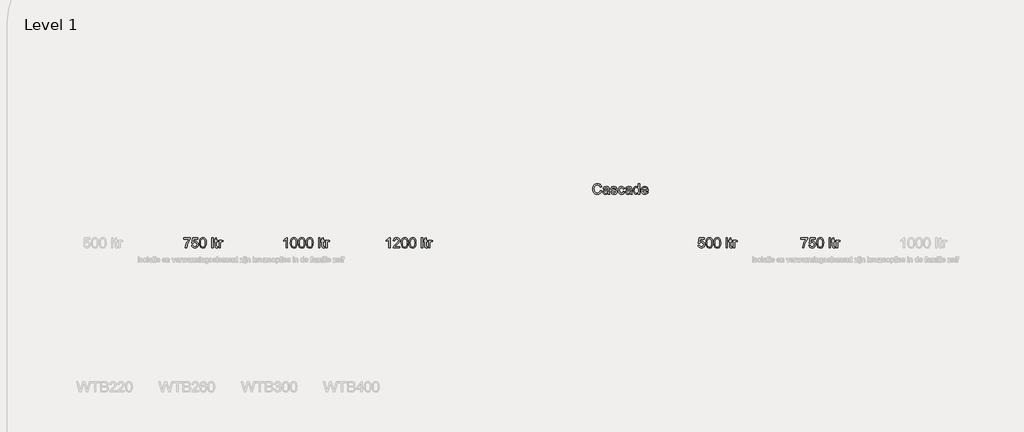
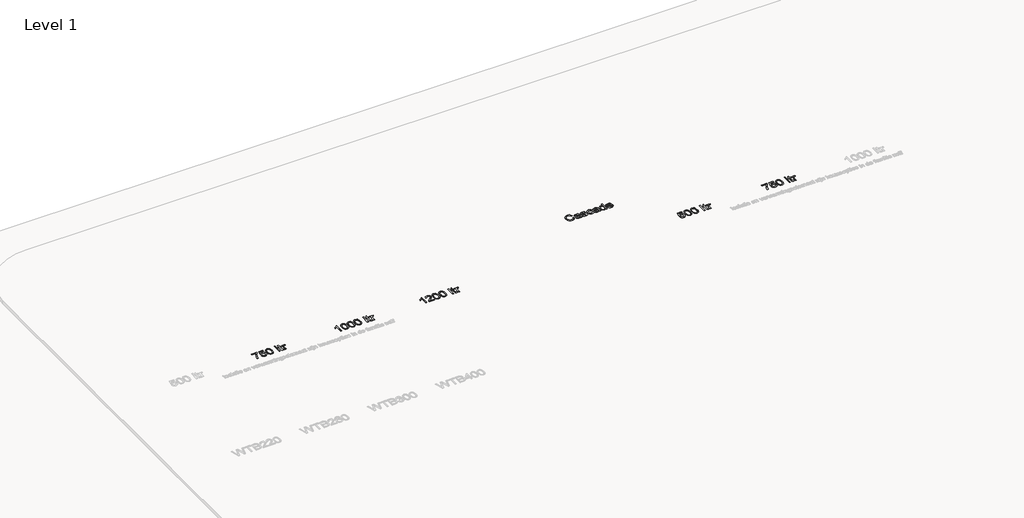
# One storey, part 29 of 34: 6 proxies.
"""IFC4 building model written with IfcOpenShell, lengths in millimetres."""

from ifc_helpers import new_model, si_unit, origin, origin_with_axes, place, context, project, spatial, polyline, outline, extrude, element, save

model = new_model("IFC4")

# Units and contexts
model_context = context("Model", 3, world=origin())
ifc_project = project(units=[si_unit("LENGTHUNIT", "METRE", prefix="MILLI")], contexts=[model_context])

# Site, building, storey
site = spatial("IfcSite", under=ifc_project)
building = spatial("IfcBuilding", under=site)
storey = spatial("IfcBuildingStorey", under=building, Name="Level 1", Elevation=0.0)

# Proxies
placement = place(None, origin())
element("IfcBuildingElementProxy", 1, Name="type", ObjectType="type", at=placement, inside=storey, context=model_context, shape_type="SweptSolid", body=[
    extrude(outline(polyline([(-7928.1485869, 11188.0835317), (-7909.3130288, 11190.4379765), (-7905.854938, 11179.1302037), (-7899.8216733, 11171.0322013), (-7891.2408257, 11166.1623634), (-7880.1399865, 11164.539084), (-7866.6387173, 11166.7969598), (-7856.5219624, 11173.570587), (-7850.2035892, 11184.0782165), (-7848.0974648, 11197.538099), (-7850.070232, 11210.2116337), (-7855.9885336, 11219.9053243), (-7865.8983548, 11226.0581507), (-7879.8456809, 11228.1090928), (-7896.3819766, 11224.8349431), (-7906.958584, 11216.336869), (-7925.7941421, 11218.6913137), (-7909.3130288, 11296.3879911), (-7836.3252409, 11296.3879911), (-7836.3252409, 11277.552433), (-7894.0827142, 11277.552433), (-7902.1393298, 11236.0553439), (-7888.6840459, 11244.2223242), (-7874.5849684, 11246.944651), (-7856.9864135, 11243.5693337), (-7842.3768997, 11233.4433817), (-7832.5406549, 11218.010732), (-7829.2619066, 11198.7153214), (-7832.2141596, 11179.8797632), (-7841.0709186, 11163.7665319), (-7858.0302786, 11150.2192774), (-7880.2135629, 11145.7035259), (-7898.7134288, 11148.6051951), (-7913.4517012, 11157.3102028), (-7923.5546605, 11170.8068735), (-7928.1485869, 11188.0835317)])), origin_with_axes(), (0.0, 0.0, 1.0), 5.0),
    extrude(outline(polyline([(-7812.7807932, 11222.1861927), (-7811.3966372, 11246.305456), (-7807.2441692, 11265.5410858), (-7800.3647759, 11280.1873878), (-7790.799844, 11290.5386674), (-7778.4803957, 11296.6914938), (-7763.3374531, 11298.7424359), (-7741.3381098, 11293.8863936), (-7726.1445834, 11279.8884836), (-7717.3154155, 11257.5948347), (-7713.8941129, 11222.1861927), (-7715.2644733, 11198.2048851), (-7719.3755546, 11179.0152406), (-7726.2135612, 11164.3551431), (-7735.7646975, 11153.9624767), (-7748.111737, 11147.7682636), (-7763.3374531, 11145.7035259), (-7782.9087752, 11149.2903753), (-7797.7712078, 11160.0509237), (-7809.0283969, 11185.5359489), (-7812.7807932, 11222.1861927)]), holes=[polyline([(-7793.9452351, 11222.2229809), (-7791.7379431, 11192.5946847), (-7785.1160672, 11175.4467852), (-7775.2568297, 11167.2660093), (-7763.3374531, 11164.539084), (-7751.4180764, 11167.2752064), (-7741.558839, 11175.4835734), (-7734.936963, 11192.64067), (-7732.7296711, 11222.2229809), (-7734.8633866, 11251.184491), (-7741.2645334, 11268.4657477), (-7751.1053767, 11277.0465952), (-7763.5581823, 11279.9068777), (-7775.3488002, 11277.3868861), (-7784.8217616, 11269.8269111), (-7791.6643667, 11251.4695995), (-7793.9452351, 11222.2229809)])]), origin_with_axes(), (0.0, 0.0, 1.0), 5.0),
    extrude(outline(polyline([(-7697.4129995, 11222.1861927), (-7696.0288435, 11246.305456), (-7691.8763755, 11265.5410858), (-7684.9969822, 11280.1873878), (-7675.4320503, 11290.5386674), (-7663.112602, 11296.6914938), (-7647.9696594, 11298.7424359), (-7625.9703161, 11293.8863936), (-7610.7767897, 11279.8884836), (-7601.9476218, 11257.5948347), (-7598.5263192, 11222.1861927), (-7599.8966797, 11198.2048851), (-7604.007761, 11179.0152406), (-7610.8457675, 11164.3551431), (-7620.3969038, 11153.9624767), (-7632.7439433, 11147.7682636), (-7647.9696594, 11145.7035259), (-7667.5409815, 11149.2903753), (-7682.4034141, 11160.0509237), (-7693.6606032, 11185.5359489), (-7697.4129995, 11222.1861927)]), holes=[polyline([(-7678.5774414, 11222.2229809), (-7676.3701494, 11192.5946847), (-7669.7482735, 11175.4467852), (-7659.889036, 11167.2660093), (-7647.9696594, 11164.539084), (-7636.0502827, 11167.2752064), (-7626.1910453, 11175.4835734), (-7619.5691694, 11192.64067), (-7617.3618774, 11222.2229809), (-7619.495593, 11251.184491), (-7625.8967397, 11268.4657477), (-7635.737583, 11277.0465952), (-7648.1903886, 11279.9068777), (-7659.9810065, 11277.3868861), (-7669.4539679, 11269.8269111), (-7676.296573, 11251.4695995), (-7678.5774414, 11222.2229809)])]), origin_with_axes(), (0.0, 0.0, 1.0), 5.0),
    extrude(outline(polyline([(-7518.4751971, 11148.0579707), (-7518.4751971, 11298.7424359), (-7499.6396389, 11298.7424359), (-7499.6396389, 11148.0579707), (-7518.4751971, 11148.0579707)])), origin_with_axes(), (0.0, 0.0, 1.0), 5.0),
    extrude(outline(polyline([(-7431.3607406, 11163.7665319), (-7429.0062958, 11147.5061477), (-7443.0961763, 11145.7035259), (-7458.8783139, 11148.8305229), (-7466.7509886, 11157.0342913), (-7469.0318569, 11178.4082353), (-7469.0318569, 11239.8813167), (-7483.1585255, 11239.8813167), (-7483.1585255, 11258.7168748), (-7469.0318569, 11258.7168748), (-7469.0318569, 11285.6090487), (-7450.1962988, 11296.6822967), (-7450.1962988, 11258.7168748), (-7431.3607406, 11258.7168748), (-7431.3607406, 11239.8813167), (-7450.1962988, 11239.8813167), (-7450.1962988, 11178.9600583), (-7449.2030174, 11169.2479736), (-7445.9840499, 11165.8082769), (-7439.5645091, 11164.539084), (-7431.3607406, 11163.7665319)])), origin_with_axes(), (0.0, 0.0, 1.0), 5.0),
    extrude(outline(polyline([(-7412.5251825, 11148.0579707), (-7412.5251825, 11258.7168748), (-7396.0440691, 11258.7168748), (-7396.0440691, 11242.346126), (-7384.3454216, 11257.4292878), (-7372.5731978, 11261.0713196), (-7353.6640632, 11255.2587841), (-7359.9548454, 11238.3730005), (-7373.1985972, 11242.2357614), (-7383.8487809, 11238.5201533), (-7390.6362038, 11228.2194574), (-7393.6896243, 11206.2201141), (-7393.6896243, 11148.0579707), (-7412.5251825, 11148.0579707)])), origin_with_axes(), (0.0, 0.0, 1.0), 5.0),
])
element("IfcBuildingElementProxy", 2, Name="type", ObjectType="type", at=placement, inside=storey, context=model_context, shape_type="SweptSolid", body=[
    extrude(outline(polyline([(-6428.1485869, 11277.552433), (-6428.1485869, 11296.3879911), (-6329.2619066, 11296.3879911), (-6329.2619066, 11281.1576765), (-6357.3129087, 11240.6354748), (-6369.62316, 11215.1734422), (-6378.7788232, 11189.0032367), (-6385.7685811, 11148.0579707), (-6404.6041392, 11148.0579707), (-6397.1177406, 11190.5483411), (-6388.4035359, 11215.0078953), (-6376.5715312, 11238.5753356), (-6348.0974648, 11277.552433), (-6428.1485869, 11277.552433)])), origin_with_axes(), (0.0, 0.0, 1.0), 5.0),
    extrude(outline(polyline([(-6312.7807932, 11188.0835317), (-6293.9452351, 11190.4379765), (-6290.4871443, 11179.1302037), (-6284.4538796, 11171.0322013), (-6275.8730321, 11166.1623634), (-6264.7721928, 11164.539084), (-6251.2709236, 11166.7969598), (-6241.1541688, 11173.570587), (-6234.8357955, 11184.0782165), (-6232.7296711, 11197.538099), (-6234.7024383, 11210.2116337), (-6240.6207399, 11219.9053243), (-6250.5305611, 11226.0581507), (-6264.4778873, 11228.1090928), (-6281.0141829, 11224.8349431), (-6291.5907903, 11216.336869), (-6310.4263484, 11218.6913137), (-6293.9452351, 11296.3879911), (-6220.9574472, 11296.3879911), (-6220.9574472, 11277.552433), (-6278.7149205, 11277.552433), (-6286.7715362, 11236.0553439), (-6273.3162522, 11244.2223242), (-6259.2171747, 11246.944651), (-6241.6186198, 11243.5693337), (-6227.009106, 11233.4433817), (-6217.1728612, 11218.010732), (-6213.8941129, 11198.7153214), (-6216.8463659, 11179.8797632), (-6225.703125, 11163.7665319), (-6242.6624849, 11150.2192774), (-6264.8457692, 11145.7035259), (-6283.3456351, 11148.6051951), (-6298.0839075, 11157.3102028), (-6308.1868668, 11170.8068735), (-6312.7807932, 11188.0835317)])), origin_with_axes(), (0.0, 0.0, 1.0), 5.0),
    extrude(outline(polyline([(-6197.4129995, 11222.1861927), (-6196.0288435, 11246.305456), (-6191.8763755, 11265.5410858), (-6184.9969822, 11280.1873878), (-6175.4320503, 11290.5386674), (-6163.112602, 11296.6914938), (-6147.9696594, 11298.7424359), (-6125.9703161, 11293.8863936), (-6110.7767897, 11279.8884836), (-6101.9476218, 11257.5948347), (-6098.5263192, 11222.1861927), (-6099.8966797, 11198.2048851), (-6104.007761, 11179.0152406), (-6110.8457675, 11164.3551431), (-6120.3969038, 11153.9624767), (-6132.7439433, 11147.7682636), (-6147.9696594, 11145.7035259), (-6167.5409815, 11149.2903753), (-6182.4034141, 11160.0509237), (-6193.6606032, 11185.5359489), (-6197.4129995, 11222.1861927)]), holes=[polyline([(-6178.5774414, 11222.2229809), (-6176.3701494, 11192.5946847), (-6169.7482735, 11175.4467852), (-6159.889036, 11167.2660093), (-6147.9696594, 11164.539084), (-6136.0502827, 11167.2752064), (-6126.1910453, 11175.4835734), (-6119.5691694, 11192.64067), (-6117.3618774, 11222.2229809), (-6119.495593, 11251.184491), (-6125.8967397, 11268.4657477), (-6135.737583, 11277.0465952), (-6148.1903886, 11279.9068777), (-6159.9810065, 11277.3868861), (-6169.4539679, 11269.8269111), (-6176.296573, 11251.4695995), (-6178.5774414, 11222.2229809)])]), origin_with_axes(), (0.0, 0.0, 1.0), 5.0),
    extrude(outline(polyline([(-6018.4751971, 11148.0579707), (-6018.4751971, 11298.7424359), (-5999.6396389, 11298.7424359), (-5999.6396389, 11148.0579707), (-6018.4751971, 11148.0579707)])), origin_with_axes(), (0.0, 0.0, 1.0), 5.0),
    extrude(outline(polyline([(-5931.3607406, 11163.7665319), (-5929.0062958, 11147.5061477), (-5943.0961763, 11145.7035259), (-5958.8783139, 11148.8305229), (-5966.7509886, 11157.0342913), (-5969.0318569, 11178.4082353), (-5969.0318569, 11239.8813167), (-5983.1585255, 11239.8813167), (-5983.1585255, 11258.7168748), (-5969.0318569, 11258.7168748), (-5969.0318569, 11285.6090487), (-5950.1962988, 11296.6822967), (-5950.1962988, 11258.7168748), (-5931.3607406, 11258.7168748), (-5931.3607406, 11239.8813167), (-5950.1962988, 11239.8813167), (-5950.1962988, 11178.9600583), (-5949.2030174, 11169.2479736), (-5945.9840499, 11165.8082769), (-5939.5645091, 11164.539084), (-5931.3607406, 11163.7665319)])), origin_with_axes(), (0.0, 0.0, 1.0), 5.0),
    extrude(outline(polyline([(-5912.5251825, 11148.0579707), (-5912.5251825, 11258.7168748), (-5896.0440691, 11258.7168748), (-5896.0440691, 11242.346126), (-5884.3454216, 11257.4292878), (-5872.5731978, 11261.0713196), (-5853.6640632, 11255.2587841), (-5859.9548454, 11238.3730005), (-5873.1985972, 11242.2357614), (-5883.8487809, 11238.5201533), (-5890.6362038, 11228.2194574), (-5893.6896243, 11206.2201141), (-5893.6896243, 11148.0579707), (-5912.5251825, 11148.0579707)])), origin_with_axes(), (0.0, 0.0, 1.0), 5.0),
])
element("IfcBuildingElementProxy", 3, Name="type", ObjectType="type", at=placement, inside=storey, context=model_context, shape_type="SweptSolid", body=[
    extrude(outline(polyline([(-15430.2812113, 11277.552433), (-15430.2812113, 11296.3879911), (-15331.394531, 11296.3879911), (-15331.394531, 11281.1576765), (-15359.4455331, 11240.6354748), (-15371.7557844, 11215.1734422), (-15380.9114475, 11189.0032367), (-15387.9012054, 11148.0579707), (-15406.7367636, 11148.0579707), (-15399.250365, 11190.5483411), (-15390.5361602, 11215.0078953), (-15378.7041556, 11238.5753356), (-15350.2300891, 11277.552433), (-15430.2812113, 11277.552433)])), origin_with_axes(), (0.0, 0.0, 1.0), 5.0),
    extrude(outline(polyline([(-15314.9134176, 11188.0835317), (-15296.0778594, 11190.4379765), (-15292.6197687, 11179.1302037), (-15286.586504, 11171.0322013), (-15278.0056564, 11166.1623634), (-15266.9048172, 11164.539084), (-15253.403548, 11166.7969598), (-15243.2867931, 11173.570587), (-15236.9684199, 11184.0782165), (-15234.8622954, 11197.538099), (-15236.8350626, 11210.2116337), (-15242.7533642, 11219.9053243), (-15252.6631855, 11226.0581507), (-15266.6105116, 11228.1090928), (-15283.1468073, 11224.8349431), (-15293.7234147, 11216.336869), (-15312.5589728, 11218.6913137), (-15296.0778594, 11296.3879911), (-15223.0900716, 11296.3879911), (-15223.0900716, 11277.552433), (-15280.8475448, 11277.552433), (-15288.9041605, 11236.0553439), (-15275.4488766, 11244.2223242), (-15261.3497991, 11246.944651), (-15243.7512441, 11243.5693337), (-15229.1417304, 11233.4433817), (-15219.3054856, 11218.010732), (-15216.0267373, 11198.7153214), (-15218.9789903, 11179.8797632), (-15227.8357493, 11163.7665319), (-15244.7951093, 11150.2192774), (-15266.9783936, 11145.7035259), (-15285.4782595, 11148.6051951), (-15300.2165319, 11157.3102028), (-15310.3194912, 11170.8068735), (-15314.9134176, 11188.0835317)])), origin_with_axes(), (0.0, 0.0, 1.0), 5.0),
    extrude(outline(polyline([(-15199.5456239, 11222.1861927), (-15198.1614679, 11246.305456), (-15194.0089999, 11265.5410858), (-15187.1296066, 11280.1873878), (-15177.5646747, 11290.5386674), (-15165.2452264, 11296.6914938), (-15150.1022838, 11298.7424359), (-15128.1029404, 11293.8863936), (-15112.909414, 11279.8884836), (-15104.0802462, 11257.5948347), (-15100.6589436, 11222.1861927), (-15102.029304, 11198.2048851), (-15106.1403853, 11179.0152406), (-15112.9783919, 11164.3551431), (-15122.5295282, 11153.9624767), (-15134.8765677, 11147.7682636), (-15150.1022838, 11145.7035259), (-15169.6736059, 11149.2903753), (-15184.5360385, 11160.0509237), (-15195.7932276, 11185.5359489), (-15199.5456239, 11222.1861927)]), holes=[polyline([(-15180.7100657, 11222.2229809), (-15178.5027738, 11192.5946847), (-15171.8808979, 11175.4467852), (-15162.0216604, 11167.2660093), (-15150.1022838, 11164.539084), (-15138.1829071, 11167.2752064), (-15128.3236696, 11175.4835734), (-15121.7017937, 11192.64067), (-15119.4945018, 11222.2229809), (-15121.6282173, 11251.184491), (-15128.029364, 11268.4657477), (-15137.8702074, 11277.0465952), (-15150.3230129, 11279.9068777), (-15162.1136309, 11277.3868861), (-15171.5865923, 11269.8269111), (-15178.4291974, 11251.4695995), (-15180.7100657, 11222.2229809)])]), origin_with_axes(), (0.0, 0.0, 1.0), 5.0),
    extrude(outline(polyline([(-15020.6078214, 11148.0579707), (-15020.6078214, 11298.7424359), (-15001.7722633, 11298.7424359), (-15001.7722633, 11148.0579707), (-15020.6078214, 11148.0579707)])), origin_with_axes(), (0.0, 0.0, 1.0), 5.0),
    extrude(outline(polyline([(-14933.493365, 11163.7665319), (-14931.1389202, 11147.5061477), (-14945.2288006, 11145.7035259), (-14961.0109382, 11148.8305229), (-14968.8836129, 11157.0342913), (-14971.1644813, 11178.4082353), (-14971.1644813, 11239.8813167), (-14985.2911499, 11239.8813167), (-14985.2911499, 11258.7168748), (-14971.1644813, 11258.7168748), (-14971.1644813, 11285.6090487), (-14952.3289231, 11296.6822967), (-14952.3289231, 11258.7168748), (-14933.493365, 11258.7168748), (-14933.493365, 11239.8813167), (-14952.3289231, 11239.8813167), (-14952.3289231, 11178.9600583), (-14951.3356418, 11169.2479736), (-14948.1166743, 11165.8082769), (-14941.6971335, 11164.539084), (-14933.493365, 11163.7665319)])), origin_with_axes(), (0.0, 0.0, 1.0), 5.0),
    extrude(outline(polyline([(-14914.6578068, 11148.0579707), (-14914.6578068, 11258.7168748), (-14898.1766935, 11258.7168748), (-14898.1766935, 11242.346126), (-14886.478046, 11257.4292878), (-14874.7058222, 11261.0713196), (-14855.7966876, 11255.2587841), (-14862.0874697, 11238.3730005), (-14875.3312216, 11242.2357614), (-14885.9814053, 11238.5201533), (-14892.7688281, 11228.2194574), (-14895.8222487, 11206.2201141), (-14895.8222487, 11148.0579707), (-14914.6578068, 11148.0579707)])), origin_with_axes(), (0.0, 0.0, 1.0), 5.0),
])
element("IfcBuildingElementProxy", 4, Name="type", ObjectType="type", at=placement, inside=storey, context=model_context, shape_type="SweptSolid", body=[
    extrude(outline(polyline([(-13917.331765, 11148.0579707), (-13936.1673232, 11148.0579707), (-13936.1673232, 11265.4859035), (-13954.0096, 11252.7755806), (-13973.8384395, 11243.265831), (-13973.8384395, 11261.0713196), (-13946.2288958, 11278.6928672), (-13929.4718709, 11298.7424359), (-13917.331765, 11298.7424359), (-13917.331765, 11148.0579707)])), origin_with_axes(), (0.0, 0.0, 1.0), 5.0),
    extrude(outline(polyline([(-13872.5973144, 11222.1861927), (-13871.2131584, 11246.305456), (-13867.0606904, 11265.5410858), (-13860.1812971, 11280.1873878), (-13850.6163652, 11290.5386674), (-13838.2969169, 11296.6914938), (-13823.1539743, 11298.7424359), (-13801.154631, 11293.8863936), (-13785.9611046, 11279.8884836), (-13777.1319367, 11257.5948347), (-13773.7106341, 11222.1861927), (-13775.0809946, 11198.2048851), (-13779.1920759, 11179.0152406), (-13786.0300824, 11164.3551431), (-13795.5812187, 11153.9624767), (-13807.9282582, 11147.7682636), (-13823.1539743, 11145.7035259), (-13842.7252964, 11149.2903753), (-13857.587729, 11160.0509237), (-13868.8449181, 11185.5359489), (-13872.5973144, 11222.1861927)]), holes=[polyline([(-13853.7617563, 11222.2229809), (-13851.5544643, 11192.5946847), (-13844.9325884, 11175.4467852), (-13835.0733509, 11167.2660093), (-13823.1539743, 11164.539084), (-13811.2345976, 11167.2752064), (-13801.3753602, 11175.4835734), (-13794.7534843, 11192.64067), (-13792.5461923, 11222.2229809), (-13794.6799079, 11251.184491), (-13801.0810546, 11268.4657477), (-13810.9218979, 11277.0465952), (-13823.3747035, 11279.9068777), (-13835.1653214, 11277.3868861), (-13844.6382828, 11269.8269111), (-13851.4808879, 11251.4695995), (-13853.7617563, 11222.2229809)])]), origin_with_axes(), (0.0, 0.0, 1.0), 5.0),
    extrude(outline(polyline([(-13757.2295207, 11222.1861927), (-13755.8453647, 11246.305456), (-13751.6928967, 11265.5410858), (-13744.8135034, 11280.1873878), (-13735.2485715, 11290.5386674), (-13722.9291232, 11296.6914938), (-13707.7861806, 11298.7424359), (-13685.7868373, 11293.8863936), (-13670.5933109, 11279.8884836), (-13661.764143, 11257.5948347), (-13658.3428404, 11222.1861927), (-13659.7132009, 11198.2048851), (-13663.8242822, 11179.0152406), (-13670.6622888, 11164.3551431), (-13680.2134251, 11153.9624767), (-13692.5604645, 11147.7682636), (-13707.7861806, 11145.7035259), (-13727.3575027, 11149.2903753), (-13742.2199353, 11160.0509237), (-13753.4771244, 11185.5359489), (-13757.2295207, 11222.1861927)]), holes=[polyline([(-13738.3939626, 11222.2229809), (-13736.1866706, 11192.5946847), (-13729.5647947, 11175.4467852), (-13719.7055572, 11167.2660093), (-13707.7861806, 11164.539084), (-13695.866804, 11167.2752064), (-13686.0075665, 11175.4835734), (-13679.3856906, 11192.64067), (-13677.1783986, 11222.2229809), (-13679.3121142, 11251.184491), (-13685.7132609, 11268.4657477), (-13695.5541043, 11277.0465952), (-13708.0069098, 11279.9068777), (-13719.7975277, 11277.3868861), (-13729.2704891, 11269.8269111), (-13736.1130942, 11251.4695995), (-13738.3939626, 11222.2229809)])]), origin_with_axes(), (0.0, 0.0, 1.0), 5.0),
    extrude(outline(polyline([(-13641.8617271, 11222.1861927), (-13640.4775711, 11246.305456), (-13636.325103, 11265.5410858), (-13629.4457097, 11280.1873878), (-13619.8807778, 11290.5386674), (-13607.5613295, 11296.6914938), (-13592.4183869, 11298.7424359), (-13570.4190436, 11293.8863936), (-13555.2255172, 11279.8884836), (-13546.3963493, 11257.5948347), (-13542.9750468, 11222.1861927), (-13544.3454072, 11198.2048851), (-13548.4564885, 11179.0152406), (-13555.2944951, 11164.3551431), (-13564.8456314, 11153.9624767), (-13577.1926708, 11147.7682636), (-13592.4183869, 11145.7035259), (-13611.9897091, 11149.2903753), (-13626.8521417, 11160.0509237), (-13638.1093307, 11185.5359489), (-13641.8617271, 11222.1861927)]), holes=[polyline([(-13623.0261689, 11222.2229809), (-13620.8188769, 11192.5946847), (-13614.197001, 11175.4467852), (-13604.3377636, 11167.2660093), (-13592.4183869, 11164.539084), (-13580.4990103, 11167.2752064), (-13570.6397728, 11175.4835734), (-13564.0178969, 11192.64067), (-13561.8106049, 11222.2229809), (-13563.9443205, 11251.184491), (-13570.3454672, 11268.4657477), (-13580.1863106, 11277.0465952), (-13592.6391161, 11279.9068777), (-13604.429734, 11277.3868861), (-13613.9026954, 11269.8269111), (-13620.7453005, 11251.4695995), (-13623.0261689, 11222.2229809)])]), origin_with_axes(), (0.0, 0.0, 1.0), 5.0),
    extrude(outline(polyline([(-13462.9239246, 11148.0579707), (-13462.9239246, 11298.7424359), (-13444.0883665, 11298.7424359), (-13444.0883665, 11148.0579707), (-13462.9239246, 11148.0579707)])), origin_with_axes(), (0.0, 0.0, 1.0), 5.0),
    extrude(outline(polyline([(-13375.8094681, 11163.7665319), (-13373.4550234, 11147.5061477), (-13387.5449038, 11145.7035259), (-13403.3270414, 11148.8305229), (-13411.1997161, 11157.0342913), (-13413.4805845, 11178.4082353), (-13413.4805845, 11239.8813167), (-13427.6072531, 11239.8813167), (-13427.6072531, 11258.7168748), (-13413.4805845, 11258.7168748), (-13413.4805845, 11285.6090487), (-13394.6450263, 11296.6822967), (-13394.6450263, 11258.7168748), (-13375.8094681, 11258.7168748), (-13375.8094681, 11239.8813167), (-13394.6450263, 11239.8813167), (-13394.6450263, 11178.9600583), (-13393.6517449, 11169.2479736), (-13390.4327775, 11165.8082769), (-13384.0132366, 11164.539084), (-13375.8094681, 11163.7665319)])), origin_with_axes(), (0.0, 0.0, 1.0), 5.0),
    extrude(outline(polyline([(-13356.97391, 11148.0579707), (-13356.97391, 11258.7168748), (-13340.4927966, 11258.7168748), (-13340.4927966, 11242.346126), (-13328.7941492, 11257.4292878), (-13317.0219253, 11261.0713196), (-13298.1127908, 11255.2587841), (-13304.4035729, 11238.3730005), (-13317.6473247, 11242.2357614), (-13328.2975085, 11238.5201533), (-13335.0849313, 11228.2194574), (-13338.1383518, 11206.2201141), (-13338.1383518, 11148.0579707), (-13356.97391, 11148.0579707)])), origin_with_axes(), (0.0, 0.0, 1.0), 5.0),
])
element("IfcBuildingElementProxy", 5, Name="type", ObjectType="type", at=placement, inside=storey, context=model_context, shape_type="SweptSolid", body=[
    extrude(outline(polyline([(-12417.331765, 11148.0579707), (-12436.1673232, 11148.0579707), (-12436.1673232, 11265.4859035), (-12454.0096, 11252.7755806), (-12473.8384395, 11243.265831), (-12473.8384395, 11261.0713196), (-12446.2288958, 11278.6928672), (-12429.4718709, 11298.7424359), (-12417.331765, 11298.7424359), (-12417.331765, 11148.0579707)])), origin_with_axes(), (0.0, 0.0, 1.0), 5.0),
    extrude(outline(polyline([(-12276.0650789, 11166.8935288), (-12276.0650789, 11148.0579707), (-12374.9517592, 11148.0579707), (-12372.9284082, 11161.0442051), (-12361.4872782, 11181.0385915), (-12337.9060423, 11202.8723879), (-12305.3852739, 11234.2527221), (-12299.2876298, 11245.0684528), (-12297.2550818, 11255.5898779), (-12299.1726667, 11265.0214525), (-12304.9254214, 11272.8619375), (-12313.7683849, 11278.1456427), (-12324.9565961, 11279.9068777), (-12336.7058273, 11278.1870294), (-12345.8338993, 11273.0274844), (-12351.7246097, 11264.832913), (-12353.7617563, 11254.0079853), (-12372.5973144, 11256.36243), (-12368.0309792, 11274.5817859), (-12358.1579461, 11287.889917), (-12343.4932501, 11296.0293062), (-12324.5519259, 11298.7424359), (-12305.4726459, 11295.7258035), (-12290.835541, 11286.6759064), (-12281.523528, 11273.1562431), (-12278.4195237, 11256.730312), (-12281.7672498, 11238.8696412), (-12292.8956802, 11220.401965), (-12319.8798245, 11194.5950431), (-12341.548074, 11176.4768548), (-12350.0461481, 11166.8935288), (-12276.0650789, 11166.8935288)])), origin_with_axes(), (0.0, 0.0, 1.0), 5.0),
    extrude(outline(polyline([(-12257.2295207, 11222.1861927), (-12255.8453647, 11246.305456), (-12251.6928967, 11265.5410858), (-12244.8135034, 11280.1873878), (-12235.2485715, 11290.5386674), (-12222.9291232, 11296.6914938), (-12207.7861806, 11298.7424359), (-12185.7868373, 11293.8863936), (-12170.5933109, 11279.8884836), (-12161.764143, 11257.5948347), (-12158.3428404, 11222.1861927), (-12159.7132009, 11198.2048851), (-12163.8242822, 11179.0152406), (-12170.6622888, 11164.3551431), (-12180.2134251, 11153.9624767), (-12192.5604645, 11147.7682636), (-12207.7861806, 11145.7035259), (-12227.3575027, 11149.2903753), (-12242.2199353, 11160.0509237), (-12253.4771244, 11185.5359489), (-12257.2295207, 11222.1861927)]), holes=[polyline([(-12238.3939626, 11222.2229809), (-12236.1866706, 11192.5946847), (-12229.5647947, 11175.4467852), (-12219.7055572, 11167.2660093), (-12207.7861806, 11164.539084), (-12195.866804, 11167.2752064), (-12186.0075665, 11175.4835734), (-12179.3856906, 11192.64067), (-12177.1783986, 11222.2229809), (-12179.3121142, 11251.184491), (-12185.7132609, 11268.4657477), (-12195.5541043, 11277.0465952), (-12208.0069098, 11279.9068777), (-12219.7975277, 11277.3868861), (-12229.2704891, 11269.8269111), (-12236.1130942, 11251.4695995), (-12238.3939626, 11222.2229809)])]), origin_with_axes(), (0.0, 0.0, 1.0), 5.0),
    extrude(outline(polyline([(-12141.8617271, 11222.1861927), (-12140.4775711, 11246.305456), (-12136.325103, 11265.5410858), (-12129.4457097, 11280.1873878), (-12119.8807778, 11290.5386674), (-12107.5613295, 11296.6914938), (-12092.4183869, 11298.7424359), (-12070.4190436, 11293.8863936), (-12055.2255172, 11279.8884836), (-12046.3963493, 11257.5948347), (-12042.9750468, 11222.1861927), (-12044.3454072, 11198.2048851), (-12048.4564885, 11179.0152406), (-12055.2944951, 11164.3551431), (-12064.8456314, 11153.9624767), (-12077.1926708, 11147.7682636), (-12092.4183869, 11145.7035259), (-12111.9897091, 11149.2903753), (-12126.8521417, 11160.0509237), (-12138.1093307, 11185.5359489), (-12141.8617271, 11222.1861927)]), holes=[polyline([(-12123.0261689, 11222.2229809), (-12120.8188769, 11192.5946847), (-12114.197001, 11175.4467852), (-12104.3377636, 11167.2660093), (-12092.4183869, 11164.539084), (-12080.4990103, 11167.2752064), (-12070.6397728, 11175.4835734), (-12064.0178969, 11192.64067), (-12061.8106049, 11222.2229809), (-12063.9443205, 11251.184491), (-12070.3454672, 11268.4657477), (-12080.1863106, 11277.0465952), (-12092.6391161, 11279.9068777), (-12104.429734, 11277.3868861), (-12113.9026954, 11269.8269111), (-12120.7453005, 11251.4695995), (-12123.0261689, 11222.2229809)])]), origin_with_axes(), (0.0, 0.0, 1.0), 5.0),
    extrude(outline(polyline([(-11962.9239246, 11148.0579707), (-11962.9239246, 11298.7424359), (-11944.0883665, 11298.7424359), (-11944.0883665, 11148.0579707), (-11962.9239246, 11148.0579707)])), origin_with_axes(), (0.0, 0.0, 1.0), 5.0),
    extrude(outline(polyline([(-11875.8094681, 11163.7665319), (-11873.4550234, 11147.5061477), (-11887.5449038, 11145.7035259), (-11903.3270414, 11148.8305229), (-11911.1997161, 11157.0342913), (-11913.4805845, 11178.4082353), (-11913.4805845, 11239.8813167), (-11927.6072531, 11239.8813167), (-11927.6072531, 11258.7168748), (-11913.4805845, 11258.7168748), (-11913.4805845, 11285.6090487), (-11894.6450263, 11296.6822967), (-11894.6450263, 11258.7168748), (-11875.8094681, 11258.7168748), (-11875.8094681, 11239.8813167), (-11894.6450263, 11239.8813167), (-11894.6450263, 11178.9600583), (-11893.6517449, 11169.2479736), (-11890.4327775, 11165.8082769), (-11884.0132366, 11164.539084), (-11875.8094681, 11163.7665319)])), origin_with_axes(), (0.0, 0.0, 1.0), 5.0),
    extrude(outline(polyline([(-11856.97391, 11148.0579707), (-11856.97391, 11258.7168748), (-11840.4927966, 11258.7168748), (-11840.4927966, 11242.346126), (-11828.7941492, 11257.4292878), (-11817.0219253, 11261.0713196), (-11798.1127908, 11255.2587841), (-11804.4035729, 11238.3730005), (-11817.6473247, 11242.2357614), (-11828.2975085, 11238.5201533), (-11835.0849313, 11228.2194574), (-11838.1383518, 11206.2201141), (-11838.1383518, 11148.0579707), (-11856.97391, 11148.0579707)])), origin_with_axes(), (0.0, 0.0, 1.0), 5.0),
])
element("IfcBuildingElementProxy", 6, Name="type", ObjectType="type", at=placement, inside=storey, context=model_context, shape_type="SweptSolid", body=[
    extrude(outline(polyline([(-9353.0696391, 11985.6048782), (-9334.234081, 11980.7488358), (-9342.9252931, 11958.8000763), (-9356.5645181, 11942.7650198), (-9374.4803712, 11932.9563661), (-9396.0014679, 11929.6868149), (-9417.8490599, 11932.1608213), (-9435.1992945, 11939.5828406), (-9448.4982287, 11951.6953553), (-9458.1919192, 11968.240848), (-9464.1102208, 11987.6926085), (-9466.082988, 12008.5239265), (-9463.8527034, 12030.4956786), (-9457.1618496, 12049.4691925), (-9446.3599146, 12064.8420614), (-9431.7963861, 12076.0118785), (-9414.5243264, 12082.8130969), (-9395.5967978, 12085.0801697), (-9374.9448222, 12082.1463107), (-9357.8704991, 12073.344734), (-9344.9072573, 12059.2180654), (-9336.5885257, 12040.3089308), (-9355.4240839, 12035.8207705), (-9361.9539893, 12049.5565645), (-9370.8751277, 12058.9789421), (-9382.2978636, 12064.4281941), (-9396.3325617, 12066.2446115), (-9412.5101725, 12064.2304576), (-9425.7999096, 12058.1879958), (-9435.8844747, 12048.7518226), (-9442.4465698, 12036.5565345), (-9447.2474299, 12008.5607147), (-9445.8264857, 11991.1598963), (-9441.563653, 11976.1135227), (-9434.2979836, 11963.9964095), (-9423.8685291, 11955.3833723), (-9411.3651398, 11950.2376228), (-9397.8776661, 11948.522373), (-9382.1553094, 11950.8584237), (-9369.0541118, 11957.8665757), (-9359.1626847, 11969.4732527), (-9353.0696391, 11985.6048782)])), origin_with_axes(), (0.0, 0.0, 1.0), 5.0),
    extrude(outline(polyline([(-9240.0562902, 11946.1679283), (-9258.3216313, 11933.402423), (-9278.4999587, 11929.6868149), (-9294.2407096, 11931.921698), (-9305.851985, 11938.6263474), (-9313.0118884, 11948.8074816), (-9315.3985228, 11961.4718193), (-9311.7932792, 11976.3710401), (-9302.3203179, 11987.1867707), (-9289.1317483, 11993.3671883), (-9272.834576, 11996.1998796), (-9240.1666548, 12002.6746027), (-9240.0562902, 12006.8684575), (-9241.3530742, 12015.2745611), (-9245.2434263, 12020.7743969), (-9253.9438355, 12024.857887), (-9266.0655472, 12026.2190504), (-9285.1218346, 12022.5954128), (-9294.2085199, 12009.737937), (-9313.044078, 12012.0923818), (-9304.8954918, 12030.4864816), (-9288.4879549, 12041.265424), (-9263.6375261, 12045.0546086), (-9240.8104483, 12041.7068824), (-9227.9161843, 12033.3007788), (-9222.140437, 12020.5168795), (-9221.220732, 12004.0357661), (-9221.220732, 11980.601683), (-9220.2642388, 11947.8785796), (-9216.5118425, 11932.0412597), (-9235.3474007, 11932.0412597), (-9240.0562902, 11946.1679283)]), holes=[polyline([(-9240.0562902, 11983.8390446), (-9270.443343, 11978.0632973), (-9286.6485449, 11975.0098767), (-9293.9877907, 11970.0434698), (-9296.5629646, 11962.7961945), (-9290.9527642, 11952.6058632), (-9274.4900449, 11948.522373), (-9255.4337576, 11953.0289275), (-9243.1464989, 11963.9366286), (-9240.1666548, 11978.5047557), (-9240.0562902, 11983.8390446)])]), origin_with_axes(), (0.0, 0.0, 1.0), 5.0),
    extrude(outline(polyline([(-9202.3851739, 11965.0034864), (-9183.5496157, 11967.3579312), (-9180.5789686, 11959.3013155), (-9174.8308124, 11953.3784154), (-9154.8548201, 11948.522373), (-9135.65138, 11952.9737452), (-9129.397386, 11963.4215938), (-9130.9700816, 11968.2224539), (-9135.6881682, 11971.8828797), (-9155.0755493, 11977.2539569), (-9183.4392511, 11986.4694008), (-9195.8184803, 11997.2299492), (-9200.0307291, 12012.4234756), (-9196.6462148, 12026.4581737), (-9187.4123767, 12037.1819339), (-9175.4378177, 12042.7553461), (-9159.2326158, 12045.0546086), (-9136.3135675, 12041.3573945), (-9121.7454405, 12031.3510043), (-9115.2707174, 12014.4468266), (-9134.1062756, 12012.0923818), (-9141.188004, 12022.4850482), (-9157.7610879, 12026.2190504), (-9175.7873056, 12022.6505951), (-9181.195171, 12014.336462), (-9178.9510908, 12008.8550203), (-9171.9245447, 12004.6979537), (-9155.7009487, 12000.68804), (-9128.0546168, 11991.8220839), (-9115.2155351, 11981.7789054), (-9110.5618279, 11965.4081566), (-9116.0248755, 11947.3819389), (-9131.788619, 11934.3037339), (-9155.1123375, 11929.6868149), (-9174.1042455, 11931.912501), (-9187.9641997, 11938.5895592), (-9197.2164319, 11949.6444131), (-9202.3851739, 11965.0034864)])), origin_with_axes(), (0.0, 0.0, 1.0), 5.0),
    extrude(outline(polyline([(-9018.7384819, 11972.0668207), (-8999.9029237, 11969.712376), (-9005.1544392, 11952.9599496), (-9015.0228737, 11940.3002105), (-9028.5793253, 11932.3401638), (-9044.8948917, 11929.6868149), (-9064.9306649, 11933.3886275), (-9080.5978394, 11944.4940652), (-9090.7099957, 11962.5156844), (-9094.0807145, 11986.9660415), (-9092.6413762, 12003.7276649), (-9088.3233613, 12018.2544052), (-9081.0576919, 12029.9852424), (-9070.7753901, 12038.3591563), (-9058.4743359, 12043.3807455), (-9045.1524091, 12045.0546086), (-9029.2369143, 12042.7553461), (-9016.5127958, 12035.8575587), (-9007.3847238, 12024.7291283), (-9002.2573685, 12009.737937), (-9021.0929267, 12007.3834923), (-9029.830124, 12021.4917668), (-9045.0052563, 12026.2190504), (-9057.1775519, 12023.8921968), (-9066.8390528, 12016.9116359), (-9073.1436305, 12004.9002888), (-9075.2451564, 11987.4810763), (-9073.1896157, 11969.8273391), (-9067.0229938, 11957.7746052), (-9057.5362368, 11950.8354311), (-9045.5202911, 11948.522373), (-9035.7668197, 11949.9663099), (-9027.7699849, 11954.2981204), (-9021.9528508, 11961.6281691), (-9018.7384819, 11972.0668207)])), origin_with_axes(), (0.0, 0.0, 1.0), 5.0),
    extrude(outline(polyline([(-8912.7884673, 11946.1679283), (-8931.0538083, 11933.402423), (-8951.2321358, 11929.6868149), (-8966.9728866, 11931.921698), (-8978.5841621, 11938.6263474), (-8985.7440654, 11948.8074816), (-8988.1306999, 11961.4718193), (-8984.5254563, 11976.3710401), (-8975.052495, 11987.1867707), (-8961.8639254, 11993.3671883), (-8945.5667531, 11996.1998796), (-8912.8988319, 12002.6746027), (-8912.7884673, 12006.8684575), (-8914.0852513, 12015.2745611), (-8917.9756034, 12020.7743969), (-8926.6760126, 12024.857887), (-8938.7977243, 12026.2190504), (-8957.8540117, 12022.5954128), (-8966.940697, 12009.737937), (-8985.7762551, 12012.0923818), (-8977.6276689, 12030.4864816), (-8961.2201319, 12041.265424), (-8936.3697032, 12045.0546086), (-8913.5426254, 12041.7068824), (-8900.6483614, 12033.3007788), (-8894.8726141, 12020.5168795), (-8893.9529091, 12004.0357661), (-8893.9529091, 11980.601683), (-8892.9964159, 11947.8785796), (-8889.2440196, 11932.0412597), (-8908.0795777, 11932.0412597), (-8912.7884673, 11946.1679283)]), holes=[polyline([(-8912.7884673, 11983.8390446), (-8943.1755201, 11978.0632973), (-8959.380722, 11975.0098767), (-8966.7199678, 11970.0434698), (-8969.2951417, 11962.7961945), (-8963.6849413, 11952.6058632), (-8947.222222, 11948.522373), (-8928.1659347, 11953.0289275), (-8915.878676, 11963.9366286), (-8912.8988319, 11978.5047557), (-8912.7884673, 11983.8390446)])]), origin_with_axes(), (0.0, 0.0, 1.0), 5.0),
    extrude(outline(polyline([(-8799.7751184, 11932.0412597), (-8799.7751184, 11949.80996), (-8812.2371209, 11934.7176012), (-8829.4631954, 11929.6868149), (-8841.6400894, 11931.5078308), (-8852.7869139, 11936.9708784), (-8862.223087, 11945.6942802), (-8869.2680273, 11957.2963586), (-8873.65502, 11971.3080641), (-8875.117351, 11987.2603471), (-8869.7278797, 12017.2427297), (-8862.9956392, 12029.1345152), (-8853.5778602, 12037.8809097), (-8842.1873139, 12043.2611839), (-8829.5367718, 12045.0546086), (-8812.1727416, 12039.9226547), (-8799.7751184, 12026.5869324), (-8799.7751184, 12082.7257249), (-8780.9395602, 12082.7257249), (-8780.9395602, 11932.0412597), (-8799.7751184, 11932.0412597)]), holes=[polyline([(-8856.2817928, 11987.3339235), (-8854.1572743, 11970.2963886), (-8847.7837187, 11958.1792754), (-8838.5222895, 11950.9365986), (-8827.73415, 11948.522373), (-8816.950609, 11950.826234), (-8807.9237046, 11957.737817), (-8801.8122649, 11969.3858807), (-8799.7751184, 11985.8991838), (-8801.8490531, 12003.9529927), (-8808.0708574, 12016.4701776), (-8817.3276881, 12023.7818322), (-8828.5067022, 12026.2190504), (-8839.4052063, 12023.8784012), (-8848.3355417, 12016.8564536), (-8854.29523, 12004.7945227), (-8856.2817928, 11987.3339235)])]), origin_with_axes(), (0.0, 0.0, 1.0), 5.0),
    extrude(outline(polyline([(-8675.2102748, 11965.0034864), (-8656.7425986, 11962.6490417), (-8663.3966642, 11948.7339052), (-8674.0146583, 11938.3320418), (-8688.3574576, 11931.8481216), (-8706.1859388, 11929.6868149), (-8728.2864496, 11933.4162186), (-8745.2917949, 11944.6044298), (-8756.1351167, 11962.5248815), (-8759.7495573, 11986.4510067), (-8756.0983285, 12011.1818739), (-8745.1446421, 12029.6771412), (-8728.3692231, 12041.2102417), (-8707.2527966, 12045.0546086), (-8686.7939591, 12041.2194388), (-8670.446203, 12029.7139294), (-8659.7270413, 12011.2554503), (-8656.1539874, 11986.5613713), (-8656.264352, 11981.4845998), (-8740.9139991, 11981.4845998), (-8737.653645, 11967.3855223), (-8730.0798744, 11957.0204471), (-8719.1491806, 11950.6468916), (-8705.8180568, 11948.522373), (-8687.3503806, 11952.4587104), (-8675.2102748, 11965.0034864)]), holes=[polyline([(-8740.9139991, 12000.320158), (-8674.9895456, 12000.320158), (-8677.5371284, 12010.2713659), (-8682.5311265, 12017.3898825), (-8693.5124041, 12024.0117585), (-8707.326373, 12026.2190504), (-8720.0229003, 12024.4578154), (-8730.5213328, 12019.1741102), (-8737.8191918, 12010.9381521), (-8740.9139991, 12000.320158)])]), origin_with_axes(), (0.0, 0.0, 1.0), 5.0),
])

save(model, "model.ifc")
